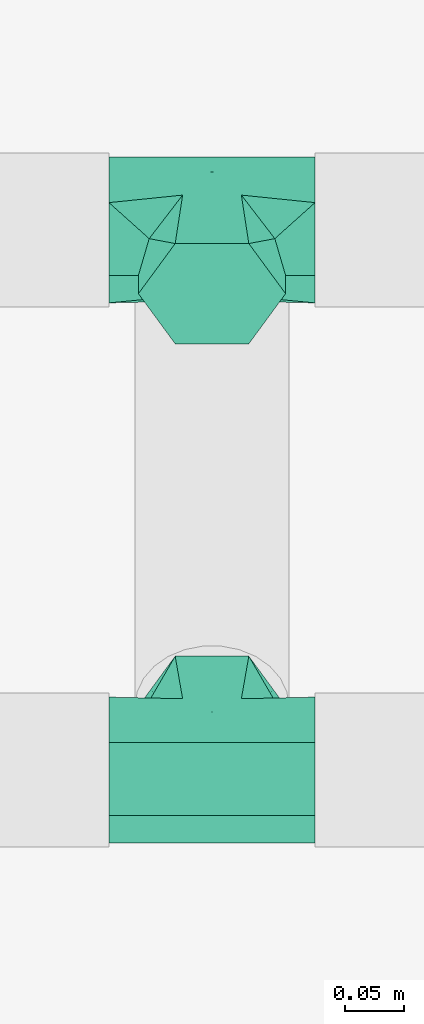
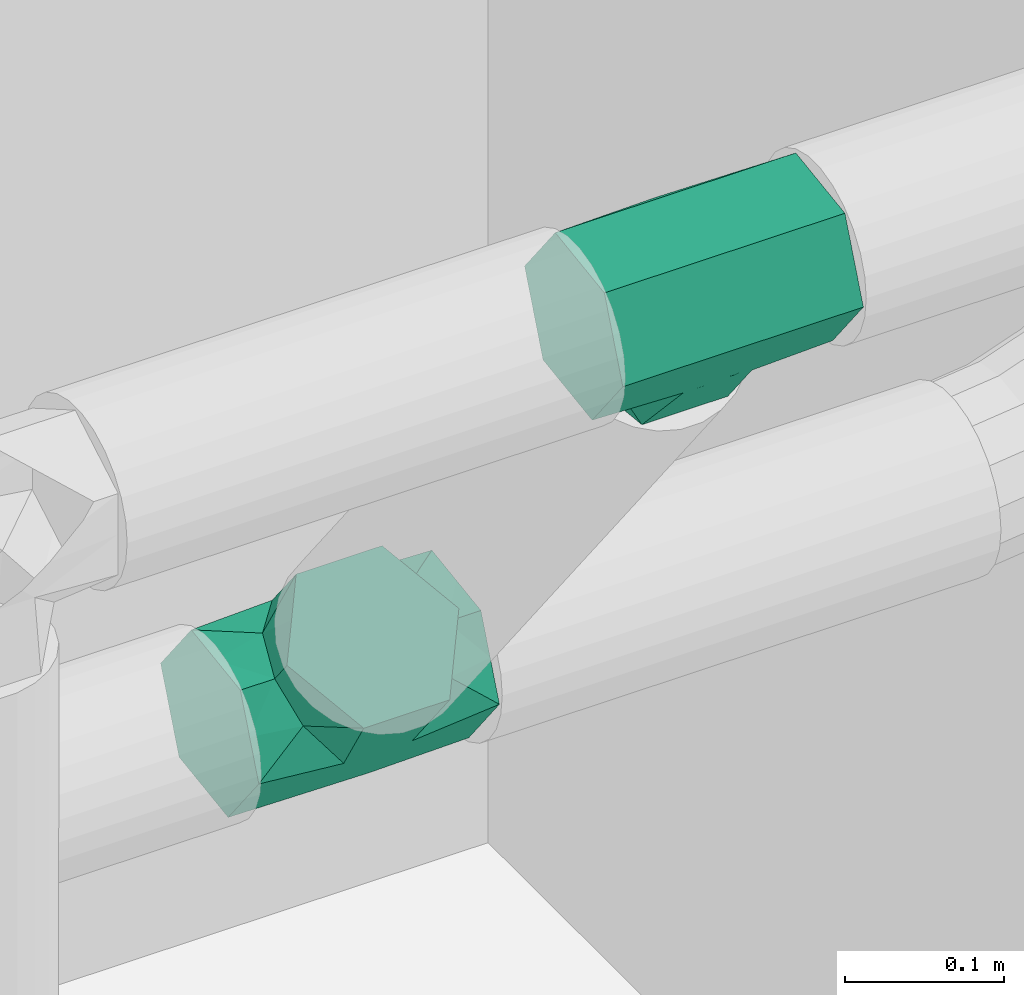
# One storey, part 11 of 12: 2 flow fittings.
"""IFC2X3 building model written with IfcOpenShell, lengths in millimetres."""

import ifcopenshell
import ifcopenshell.guid

model = None  # the IFC model being written
_history = None  # IfcOwnerHistory: only IFC2X3 demands one
_inside = {}  # id of a spatial element -> (the spatial element, [elements in it])
_under = {}  # id of a project, library or spatial element -> (it, [spatial elements below it])
_declared = {}  # id of a project -> (the project, [libraries it declares])
_typed = {}  # id of a type object -> (the type object, [elements of that type])
_made_of = {}  # id of a material, layer set ... -> (it, [elements and type objects made of it])


def new_model(schema):
    """Start an empty IFC model of exactly this schema.

    Asked for "IFC4X3", IfcOpenShell would pick the latest addendum, in which some entities
    have other attributes; the version numbers below select the first issue.
    IFC2X3 requires an IfcOwnerHistory on every rooted entity: one is made here for all.
    """
    global model, _history
    if schema == "IFC4X3":
        model = ifcopenshell.file(schema_version=(4, 3, 0, 0))
    else:
        model = ifcopenshell.file(schema=schema)
    _inside.clear()
    _under.clear()
    _declared.clear()
    _typed.clear()
    _made_of.clear()
    _history = None
    if model.schema == "IFC2X3":
        org = make("IfcOrganization", Name="unknown")
        user = make(
            "IfcPersonAndOrganization",
            ThePerson=make("IfcPerson", FamilyName="unknown"),
            TheOrganization=org,
        )
        app = make(
            "IfcApplication",
            ApplicationDeveloper=org,
            Version="unknown",
            ApplicationFullName="unknown",
            ApplicationIdentifier="unknown",
        )
        _history = make(
            "IfcOwnerHistory",
            OwningUser=user,
            OwningApplication=app,
            ChangeAction="ADDED",
            CreationDate=0,
        )
    return model


def make(cls, **values):
    """One entity of the class cls with the attributes given. An attribute that is None is left unset."""
    return model.create_entity(
        cls, **{name: value for name, value in values.items() if value is not None}
    )


def entity(cls, *values):
    """Any entity or typed value of the class cls, its attributes in the order of the schema. None: left unset."""
    e = model.create_entity(cls)
    for i, value in enumerate(values):
        if value is not None:
            e[i] = value
    return e


def rooted(cls, **values):
    """An entity with a GlobalId (a new one), such as an element, a storey or a relation."""
    return make(cls, GlobalId=ifcopenshell.guid.new(), OwnerHistory=_history, **values)


def si_unit(unit_type, name, prefix=None):
    """IfcSIUnit, for example si_unit("LENGTHUNIT", "METRE", prefix="MILLI")."""
    return make("IfcSIUnit", UnitType=unit_type, Prefix=prefix, Name=name)


def converted_unit(unit_type, name, factor, base, dimensions=None, offset=None):
    """IfcConversionBasedUnit, such as the inch: factor (a typed value) times the base unit."""
    return make(
        "IfcConversionBasedUnit"
        if offset is None
        else "IfcConversionBasedUnitWithOffset",
        ConversionOffset=offset,
        Dimensions=None
        if dimensions is None
        else entity("IfcDimensionalExponents", *dimensions),
        UnitType=unit_type,
        Name=name,
        ConversionFactor=make(
            "IfcMeasureWithUnit", ValueComponent=factor, UnitComponent=base
        ),
    )


def assignment(units):
    """IfcUnitAssignment: the units of a project."""
    return None if units is None else make("IfcUnitAssignment", Units=units)


def point(xyz):
    """IfcCartesianPoint."""
    return None if xyz is None else make("IfcCartesianPoint", Coordinates=xyz)


def direction(xyz):
    """IfcDirection."""
    return None if xyz is None else make("IfcDirection", DirectionRatios=xyz)


def frame(location, z_axis=None, x_axis=None):
    """IfcAxis2Placement3D, a coordinate frame: its origin and axes. An axis left out is left unset."""
    return make(
        "IfcAxis2Placement3D",
        Location=point(location),
        Axis=direction(z_axis),
        RefDirection=direction(x_axis),
    )


def origin():
    """The frame at (0, 0, 0) with its axes left unset."""
    return frame((0.0, 0.0, 0.0))


def place(relative_to, where):
    """IfcLocalPlacement: puts the frame where relative to a parent placement (None: the world)."""
    return make(
        "IfcLocalPlacement", PlacementRelTo=relative_to, RelativePlacement=where
    )


def context(
    kind, dimensions, precision=None, world=None, true_north=None, identifier=None
):
    """IfcGeometricRepresentationContext, for example the 3D "Model" context."""
    return make(
        "IfcGeometricRepresentationContext",
        ContextIdentifier=identifier,
        ContextType=kind,
        CoordinateSpaceDimension=dimensions,
        Precision=precision,
        WorldCoordinateSystem=world,
        TrueNorth=true_north,
    )


def subcontext(parent, identifier, kind, view, scale=None):
    """IfcGeometricRepresentationSubContext, for example "Body" below "Model"."""
    return make(
        "IfcGeometricRepresentationSubContext",
        ContextIdentifier=identifier,
        ContextType=kind,
        ParentContext=parent,
        TargetScale=scale,
        TargetView=view,
    )


def project(units=None, contexts=None):
    """IfcProject with its units and contexts."""
    return rooted(
        "IfcProject",
        Name="project",
        RepresentationContexts=contexts,
        UnitsInContext=assignment(units),
    )


def spatial(cls, under=None, at=None, **own):
    """A site, building, storey or space (cls), placed at a placement, below another one or the project."""
    s = rooted(cls, ObjectPlacement=at, **own)
    if under is not None:
        _under.setdefault(under.id(), (under, []))[1].append(s)
    return s


def faces_of(points, faces, orient=None, outer=None):
    """IfcFace entities. A face is a list of loops; a loop is a list of indices into points, from 0.

    orient and outer hold one flag for each loop. By default every Orientation is true, the
    first loop of a face is its IfcFaceOuterBound and the others are IfcFaceBound.
    """
    made = []
    for i, loops in enumerate(faces):
        bounds = []
        for j, loop in enumerate(loops):
            is_outer = j == 0 if outer is None else outer[i][j]
            bounds.append(
                make(
                    "IfcFaceOuterBound" if is_outer else "IfcFaceBound",
                    Bound=make("IfcPolyLoop", Polygon=[points[k] for k in loop]),
                    Orientation=True if orient is None else orient[i][j],
                )
            )
        made.append(make("IfcFace", Bounds=bounds))
    return made


def faceted_brep(points, faces, orient=None, outer=None, voids=None):
    """IfcFacetedBrep: a solid bounded by flat faces; with voids (closed shells), ...WithVoids."""
    shared = [point(p) for p in points]
    hull = make("IfcClosedShell", CfsFaces=faces_of(shared, faces, orient, outer))
    if voids is None:
        return make("IfcFacetedBrep", Outer=hull)
    return make(
        "IfcFacetedBrepWithVoids",
        Outer=hull,
        Voids=[
            make(cls, CfsFaces=faces_of(shared, fs, o, b)) for cls, fs, o, b in voids
        ],
    )


def shape(context_of_items, identifier, shape_type, items):
    """IfcShapeRepresentation: the items that make up one representation, for example the "Body"."""
    return make(
        "IfcShapeRepresentation",
        ContextOfItems=context_of_items,
        RepresentationIdentifier=identifier,
        RepresentationType=shape_type,
        Items=items,
    )


def source(mapping_origin, context_of_items, identifier, shape_type, items):
    """IfcRepresentationMap: a shape defined once, which mapped items show again and again."""
    return make(
        "IfcRepresentationMap",
        MappingOrigin=mapping_origin,
        MappedRepresentation=shape(context_of_items, identifier, shape_type, items),
    )


def transform(
    local_origin,
    x_axis=None,
    y_axis=None,
    z_axis=None,
    scale=None,
    scale2=None,
    scale3=None,
    uniform=True,
):
    """IfcCartesianTransformationOperator3D, or its non-uniform kind. x_axis, y_axis, z_axis: its Axis1, 2, 3."""
    if uniform:
        return make(
            "IfcCartesianTransformationOperator3D",
            Axis1=direction(x_axis),
            Axis2=direction(y_axis),
            LocalOrigin=point(local_origin),
            Scale=scale,
            Axis3=direction(z_axis),
        )
    return make(
        "IfcCartesianTransformationOperator3DnonUniform",
        Axis1=direction(x_axis),
        Axis2=direction(y_axis),
        LocalOrigin=point(local_origin),
        Scale=scale,
        Axis3=direction(z_axis),
        Scale2=scale2,
        Scale3=scale3,
    )


def mapped(mapping_source, mapping_target):
    """IfcMappedItem: shows the shape of a source again, moved by a transform."""
    return make(
        "IfcMappedItem", MappingSource=mapping_source, MappingTarget=mapping_target
    )


def material(Name=None, Category=None):
    """IfcMaterial."""
    return make("IfcMaterial", Name=Name, Category=Category)


def made_of(thing, what):
    """Note that an element or type object is made of a material, layer set ...; save() writes the relation."""
    if what is not None:
        _made_of.setdefault(what.id(), (what, []))[1].append(thing)
    return thing


def type_object(cls, material=None, **own):
    """A type object (cls), such as IfcWallType, which elements share."""
    return made_of(rooted(cls, **own), material)


def type_shapes(of_type, sources):
    """Give a type object the sources (RepresentationMaps) that its elements show as mapped items."""
    of_type.RepresentationMaps = sources


def element(
    cls,
    number,
    at=None,
    inside=None,
    cuts=None,
    type_object=None,
    material=None,
    context=None,
    identifier="Body",
    shape_type=None,
    held_by="IfcProductDefinitionShape",
    body=None,
    shapes=None,
    **own,
):
    """One element of the class cls, such as IfcWall. Its Tag is "e" and its number.

    at: its placement. inside: the storey or other place that contains it. cuts: it is an
    opening in that element (IfcRelVoidsElement). A single representation is given by context,
    identifier, shape_type and body (its items); several are given by shapes. held_by: the class
    of the entity that holds the representations. save() writes the other relations.
    """
    e = rooted(cls, Tag="e%d" % number, ObjectPlacement=at, **own)
    if body is not None:
        shapes = [shape(context, identifier, shape_type, body)]
    if shapes is not None:
        e.Representation = make(held_by, Representations=shapes)
    if inside is not None:
        _inside.setdefault(inside.id(), (inside, []))[1].append(e)
    if cuts is not None:
        rooted(
            "IfcRelVoidsElement", RelatingBuildingElement=cuts, RelatedOpeningElement=e
        )
    if type_object is not None:
        _typed.setdefault(type_object.id(), (type_object, []))[1].append(e)
    return made_of(e, material)


def aggregate(whole, parts):
    """IfcRelAggregates: a whole, such as a stair, and the parts it consists of."""
    return rooted("IfcRelAggregates", RelatingObject=whole, RelatedObjects=parts)


def save(model, path):
    """Write the relations noted so far, then the file.

    IfcRelAggregates (storeys below a building ...), IfcRelContainedInSpatialStructure (elements
    in a storey), IfcRelDefinesByType, IfcRelAssociatesMaterial and IfcRelDeclares: one each for
    every whole, place, type object, material and project.
    """
    for whole, parts in _under.values():
        aggregate(whole, parts)
    for where, things in _inside.values():
        rooted(
            "IfcRelContainedInSpatialStructure",
            RelatedElements=things,
            RelatingStructure=where,
        )
    for kind, things in _typed.values():
        rooted("IfcRelDefinesByType", RelatedObjects=things, RelatingType=kind)
    for what, things in _made_of.values():
        rooted("IfcRelAssociatesMaterial", RelatedObjects=things, RelatingMaterial=what)
    for by, libraries in _declared.values():
        rooted("IfcRelDeclares", RelatingContext=by, RelatedDefinitions=libraries)
    model.write(path)


model = new_model("IFC2X3")

# Units and contexts
model_context = context("Model", 3, precision=0.01, world=origin(), true_north=direction((6.123031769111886e-17, 1.0)))
body_context = subcontext(model_context, "Body", "Model", "MODEL_VIEW")
ifc_project = project(units=[si_unit("LENGTHUNIT", "METRE", prefix="MILLI"), converted_unit("PLANEANGLEUNIT", "DEGREE", entity("IfcPlaneAngleMeasure", 0.017453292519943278), si_unit("PLANEANGLEUNIT", "RADIAN"), dimensions=[0, 0, 0, 0, 0, 0, 0]), si_unit("AREAUNIT", "SQUARE_METRE")], contexts=[model_context])

# Site, building, storey
site_placement = place(None, frame((7776.576483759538, 118.3519876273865, 0.0)))
site = spatial("IfcSite", under=ifc_project, at=site_placement, Name="Default", CompositionType="ELEMENT")
building_placement = place(site_placement, origin())
building = spatial("IfcBuilding", under=site, at=building_placement, Name="Bygning (endres i Project Information)", CompositionType="ELEMENT")
storey_placement = place(building_placement, frame((0.0, 0.0, 11000.0)))
storey = spatial("IfcBuildingStorey", under=building, at=storey_placement, Name="Plan U2 - Arbeid", CompositionType="ELEMENT", Elevation=10999.999999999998)

# Flow fittings
ifc_material = material(Name="DF_Material1")
pipe_fitting_type_1 = type_object("IfcPipeFittingType", Name="VA_prosess_rustfritt_vinklet_innsveising:VA_prosess_rustfritt_vinklet_innsveising", PredefinedType="NOTDEFINED", material=ifc_material)
shared_shape_1 = source(origin(), body_context, "Body", "Brep", [
    faceted_brep([(87.5624999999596, 50.78531163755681, -20.398688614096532), (87.56249999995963, 62.56250000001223, 0.0), (87.5624999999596, 50.785311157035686, 20.39868944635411), (87.56249999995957, 31.281250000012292, 54.1807143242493), (87.56249999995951, 0.0, 54.180714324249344), (87.56249999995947, -31.28124999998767, 54.180714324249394), (87.56249999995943, -46.921874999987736, 27.090357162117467), (87.56249999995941, -62.562499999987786, 0.0), (87.56249999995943, -46.92187499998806, -27.09035716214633), (87.56249999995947, -31.281249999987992, -54.18071432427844), (87.56249999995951, 0.0, -54.18071432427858), (87.56249999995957, 31.28125000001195, -54.18071432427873), (-87.56259959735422, 31.281250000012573, 54.1807143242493), (-87.5625995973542, 46.92187500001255, 27.090357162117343), (-87.56259959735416, 62.56250000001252, 0.0), (-87.5625995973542, 46.921875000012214, -27.09035716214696), (-87.56259959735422, 31.281250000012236, -54.18071432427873), (-87.56259959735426, 0.0, -54.18071432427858), (-87.56259959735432, -31.281249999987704, -54.18071432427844), (-87.56259959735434, -46.92187499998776, -27.090357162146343), (-87.56259959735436, -62.562499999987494, 0.0), (-87.56259959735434, -46.92187499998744, 27.09035716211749), (-87.56259959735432, -31.28124999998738, 54.180714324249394), (-87.56259959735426, 0.0, 54.180714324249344), (-62.562571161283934, -62.56249999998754, 0.0), (62.56242883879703, -62.56249999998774, 0.0), (-53.377509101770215, -53.37744838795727, -32.63302636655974), (53.37739634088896, -53.377457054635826, -32.633012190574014), (-24.963048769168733, -24.96302037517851, -57.366488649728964), (0.0, 0.0, -62.56250000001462), (24.963001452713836, -24.963029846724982, -57.366484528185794), (-24.96304876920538, -24.963020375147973, 57.366488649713), (0.0, 0.0, 62.56249999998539), (53.37739634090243, -53.37745705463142, 32.633012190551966), (24.963001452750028, -24.963029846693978, 57.36648452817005), (-53.377509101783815, -53.37744838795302, 32.633026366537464), (-46.92197459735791, -87.56251779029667, -27.090357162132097), (-31.281349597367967, -87.56253558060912, -54.18071432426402), (-9.959738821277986e-05, -87.56257116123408, -54.18071432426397), (31.28115040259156, -87.56260674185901, -54.1807143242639), (46.9217754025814, -87.56262453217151, -27.090357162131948), (62.56240040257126, -87.56264232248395, 0.0), (46.921775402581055, -87.56262453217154, 27.09035716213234), (31.28115040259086, -87.56260674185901, 54.18071432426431), (-9.959738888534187e-05, -87.56257116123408, 54.18071432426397), (-31.28134959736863, -87.56253558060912, 54.180714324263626), (-46.92197459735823, -87.56251779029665, 27.090357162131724), (-62.56259959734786, -87.56249999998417, 0.0)], [[[0, 1, 2, 3, 4, 5, 6, 7, 8, 9, 10, 11]], [[12, 13, 14, 15, 16, 17, 18, 19, 20, 21, 22, 23]], [[20, 19, 24]], [[25, 8, 7]], [[26, 19, 18]], [[11, 16, 15, 14, 1, 0]], [[25, 27, 8]], [[24, 19, 26]], [[28, 17, 29]], [[26, 18, 28]], [[29, 11, 10]], [[18, 17, 28]], [[29, 16, 11]], [[17, 16, 29]], [[29, 10, 30]], [[9, 27, 30]], [[30, 10, 9]], [[27, 9, 8]], [[3, 2, 1, 14, 13, 12]], [[31, 23, 22]], [[32, 23, 31]], [[3, 32, 4]], [[25, 6, 33]], [[12, 32, 3]], [[4, 34, 5]], [[34, 4, 32]], [[32, 12, 23]], [[21, 20, 24]], [[7, 6, 25]], [[24, 35, 21]], [[35, 22, 21]], [[5, 33, 6]], [[5, 34, 33]], [[35, 31, 22]], [[36, 37, 38, 39, 40, 41, 42, 43, 44, 45, 46, 47]], [[46, 45, 35]], [[24, 46, 35]], [[24, 47, 46]], [[31, 35, 45]], [[31, 44, 34]], [[34, 44, 43]], [[42, 41, 25]], [[42, 25, 33]], [[33, 43, 42]], [[31, 34, 32]], [[33, 34, 43]], [[31, 45, 44]], [[40, 39, 27]], [[25, 40, 27]], [[25, 41, 40]], [[30, 27, 39]], [[38, 37, 28]], [[36, 47, 24]], [[28, 29, 30]], [[36, 24, 26]], [[26, 37, 36]], [[30, 39, 38]], [[26, 28, 37]], [[30, 38, 28]]]),
])
type_shapes(pipe_fitting_type_1, [shared_shape_1])
flow_fitting_1_placement = place(storey_placement, frame((31131.911564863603, 32579.647502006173, 1764.5645713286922), z_axis=(-1.447462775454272e-06, 0.786278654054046, 0.6178720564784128), x_axis=(-1.0, -1.8409030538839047e-06, 0.0)))
element("IfcFlowFitting", 1, at=flow_fitting_1_placement, inside=storey, type_object=pipe_fitting_type_1, material=ifc_material, Name="VA_prosess_rustfritt_vinklet_innsveising:VA_prosess_rustfritt_vinklet_innsveising", ObjectType="VA_prosess_rustfritt_vinklet_innsveising:VA_prosess_rustfritt_vinklet_innsveising", context=body_context, shape_type="MappedRepresentation", body=[
    mapped(shared_shape_1, transform((0.0, 0.0, 0.0), scale=1.0)),
])
pipe_fitting_type_2 = type_object("IfcPipeFittingType", Name="VA_prosess_rustfritt_vinklet_innsveising:VA_prosess_rustfritt_vinklet_innsveising", PredefinedType="NOTDEFINED", material=ifc_material)
shared_shape_2 = source(origin(), body_context, "Body", "Brep", [
    faceted_brep([(87.56249999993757, 50.78531326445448, -20.398685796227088), (87.56249999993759, 62.56250000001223, 0.0), (87.56249999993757, 50.78531278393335, 20.3986866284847), (87.56249999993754, 31.281250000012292, 54.1807143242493), (87.56249999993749, 0.0, 54.180714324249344), (87.56249999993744, -31.28124999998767, 54.180714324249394), (87.5624999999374, -46.92187499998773, 27.090357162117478), (87.56249999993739, -62.562499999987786, 0.0), (87.5624999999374, -46.92187499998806, -27.09035716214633), (87.56249999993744, -31.281249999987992, -54.18071432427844), (87.56249999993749, 0.0, -54.18071432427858), (87.56249999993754, 31.28125000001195, -54.18071432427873), (-87.56262378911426, 31.281250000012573, 54.1807143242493), (-87.56262378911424, 46.92187500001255, 27.090357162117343), (-87.56262378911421, 62.56250000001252, 0.0), (-87.56262378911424, 46.9218750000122, -27.090357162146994), (-87.56262378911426, 31.281250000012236, -54.18071432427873), (-87.56262378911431, 0.0, -54.18071432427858), (-87.56262378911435, -31.281249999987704, -54.18071432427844), (-87.56262378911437, -46.92187499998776, -27.090357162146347), (-87.56262378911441, -62.562499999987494, 0.0), (-87.56262378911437, -46.92187499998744, 27.090357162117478), (-87.56262378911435, -31.28124999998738, 54.180714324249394), (-87.56262378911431, 0.0, 54.180714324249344), (-62.56258844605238, -62.56249999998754, 0.0), (62.56241155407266, -62.56249999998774, 0.0), (-53.37752279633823, -53.37744733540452, -32.63302808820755), (53.377382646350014, -53.37745810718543, -32.6330104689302), (-24.963054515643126, -24.963019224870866, -57.36648915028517), (0.0, 0.0, -62.56250000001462), (24.96299570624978, -24.963030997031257, -57.36648402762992), (-24.96305451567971, -24.96301922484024, 57.36648915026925), (0.0, 0.0, 62.56249999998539), (53.377382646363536, -53.377458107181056, 32.63301046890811), (24.96299570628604, -24.963030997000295, 57.36648402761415), (-53.37752279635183, -53.377447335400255, 32.63302808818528), (31.281126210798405, -87.56263266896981, -54.180714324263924), (46.92175121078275, -87.56265478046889, -27.090357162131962), (62.5623762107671, -87.56267689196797, 0.0), (46.921751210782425, -87.56265478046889, 27.090357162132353), (31.28112621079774, -87.56263266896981, 54.18071432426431), (-0.00012378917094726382, -87.56258844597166, 54.18071432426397), (-31.28137378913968, -87.56254422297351, 54.180714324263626), (-46.92199878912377, -87.56252211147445, 27.090357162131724), (-62.562623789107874, -87.56249999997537, 0.0), (-46.92199878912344, -87.56252211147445, -27.090357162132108), (-31.281373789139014, -87.56254422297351, -54.18071432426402), (-0.00012378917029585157, -87.56258844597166, -54.18071432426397)], [[[0, 1, 2, 3, 4, 5, 6, 7, 8, 9, 10, 11]], [[12, 13, 14, 15, 16, 17, 18, 19, 20, 21, 22, 23]], [[20, 19, 24]], [[25, 8, 7]], [[26, 19, 18]], [[11, 16, 15, 14, 1, 0]], [[25, 27, 8]], [[24, 19, 26]], [[28, 17, 29]], [[26, 18, 28]], [[29, 11, 10]], [[18, 17, 28]], [[29, 16, 11]], [[17, 16, 29]], [[29, 10, 30]], [[9, 27, 30]], [[30, 10, 9]], [[27, 9, 8]], [[3, 2, 1, 14, 13, 12]], [[31, 23, 22]], [[32, 23, 31]], [[3, 32, 4]], [[25, 6, 33]], [[12, 32, 3]], [[4, 34, 5]], [[34, 4, 32]], [[32, 12, 23]], [[21, 20, 24]], [[7, 6, 25]], [[24, 35, 21]], [[35, 22, 21]], [[5, 33, 6]], [[5, 34, 33]], [[35, 31, 22]], [[36, 37, 38, 39, 40, 41, 42, 43, 44, 45, 46, 47]], [[43, 42, 35]], [[24, 43, 35]], [[24, 44, 43]], [[31, 35, 42]], [[31, 41, 34]], [[34, 41, 40]], [[39, 38, 25]], [[39, 25, 33]], [[33, 40, 39]], [[31, 34, 32]], [[33, 34, 40]], [[31, 42, 41]], [[37, 36, 27]], [[25, 37, 27]], [[25, 38, 37]], [[30, 27, 36]], [[47, 46, 28]], [[45, 44, 24]], [[28, 29, 30]], [[45, 24, 26]], [[26, 46, 45]], [[30, 36, 47]], [[26, 28, 46]], [[30, 47, 28]]]),
])
type_shapes(pipe_fitting_type_2, [shared_shape_2])
flow_fitting_2_placement = place(storey_placement, frame((31131.911564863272, 33038.464423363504, 1180.6965682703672), z_axis=(-1.695540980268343e-07, -0.7862786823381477, -0.6178720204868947), x_axis=(-1.0, 1.0068134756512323e-06, -1.0068134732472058e-06)))
element("IfcFlowFitting", 2, at=flow_fitting_2_placement, inside=storey, type_object=pipe_fitting_type_2, material=ifc_material, Name="VA_prosess_rustfritt_vinklet_innsveising:VA_prosess_rustfritt_vinklet_innsveising", ObjectType="VA_prosess_rustfritt_vinklet_innsveising:VA_prosess_rustfritt_vinklet_innsveising", context=body_context, shape_type="MappedRepresentation", body=[
    mapped(shared_shape_2, transform((0.0, 0.0, 0.0), scale=1.0)),
])

save(model, "model.ifc")
